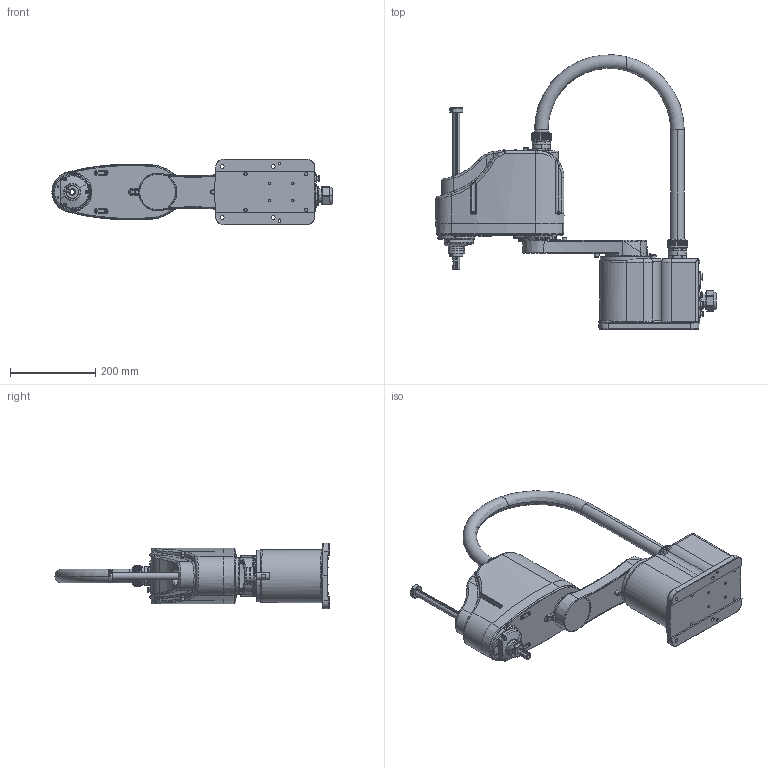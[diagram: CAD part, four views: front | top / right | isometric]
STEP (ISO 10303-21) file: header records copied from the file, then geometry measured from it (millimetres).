
FILE_DESCRIPTION((''),'2;1');
FILE_NAME('ASSY_VIEW_YR-1-04SX400-A0_ASM','2020-01-06T',('mmaekawa'),('YASKAWA ELECTRIC CORPORATION'),'PRO/ENGINEER BY PARAMETRIC TECHNOLOGY CORPORATION, 2015030','PRO/ENGINEER BY PARAMETRIC TECHNOLOGY CORPORATION, 2015030','');
FILE_SCHEMA(('CONFIG_CONTROL_DESIGN'));
Length unit declared in the file: millimetre
Products named in the file (5): BASE_VIEW_YR-1-04SX400-A0; S_VIEW_YR-1-04SX400-A0; L_VIEW_YR-1-04SX400-A0; UR_VIEW_YR-1-04SX400-A0; ASSY_VIEW_YR-1-04SX400-A0_ASM
Assembly tree (4 placements, depth 2):
  ASSY_VIEW_YR-1-04SX400-A0_ASM
    BASE_VIEW_YR-1-04SX400-A0
    S_VIEW_YR-1-04SX400-A0
    L_VIEW_YR-1-04SX400-A0
    UR_VIEW_YR-1-04SX400-A0
Bounding box: 659 x 644.92 x 155 mm (x, y, z)
Volume: 12040821.4 mm3; surface area: 633868.7 mm2
Topology: 11 solids, 27 shells, 2775 faces, 7411 edges, 4712 vertices
Faces by surface type: plane 1334, cylinder 603, cone 334, torus 225, bspline 191, sphere 83, extrusion 5
Entity records: 116182 total; most frequent: CARTESIAN_POINT 49500, ORIENTED_EDGE 14602, DIRECTION 13017, EDGE_CURVE 7325, AXIS2_PLACEMENT_3D 4908, VERTEX_POINT 4712, VECTOR 3201, LINE 3196
